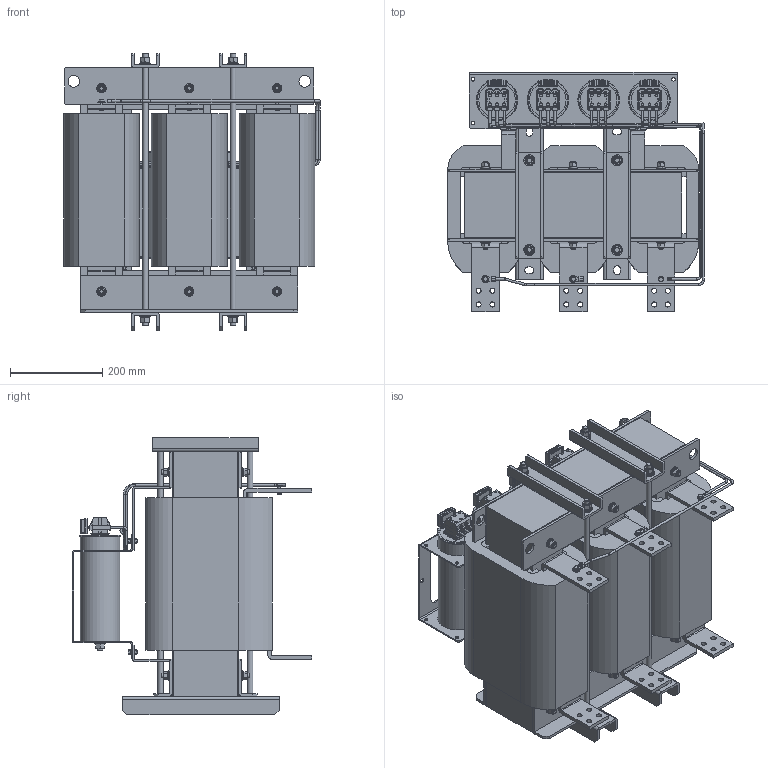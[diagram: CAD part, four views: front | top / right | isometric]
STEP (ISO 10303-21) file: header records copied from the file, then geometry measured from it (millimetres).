
FILE_DESCRIPTION (( 'STEP AP203' ), '1' );
FILE_NAME ('蔓躅漤铋 耔眢耥 翳朦蝠 _ ISINOF-355_666-4.STEP', '2026-07-21T06:44:19', ( '' ), ( '' ), 'SwSTEP 2.0', 'SolidWorks 2021', '' );
FILE_SCHEMA (( 'CONFIG_CONTROL_DESIGN' ));
Products named in the file (1): 蔓躅漤铋 耔眢耥 翳朦蝠 _ ISINOF-355_666-4
Bounding box: 555.88 x 518 x 601 mm (x, y, z)
Surface area: 5075234.8 mm2 (no closed solid volume)
Topology: 0 solids, 189 shells, 2932 faces, 7600 edges, 5039 vertices
Faces by surface type: plane 1893, cylinder 817, cone 140, bspline 45, torus 37
Full cylindrical faces by diameter (mm): 5 x49, 5.053 x3, 6 x9, 6.3 x48, 6.45 x3, 6.5 x6, 7 x3, 7.47 x2, 8 x8, 8.422 x12, 9.55 x3, 10 x8, 10.106 x8, 10.75 x12, 10.833 x12, 11 x24, 12 x18, 12.9 x8, 13 x12, 15.917 x12, 19.1 x8, 20 x12, 24 x12, 25 x4, 78.861 x4, 86 x4, 89 x4, 90 x4
Entity records: 94346 total; most frequent: CARTESIAN_POINT 25299, ORIENTED_EDGE 14042, DIRECTION 13478, EDGE_CURVE 7029, VERTEX_POINT 4901, LINE 4640, VECTOR 4640, AXIS2_PLACEMENT_3D 4419
